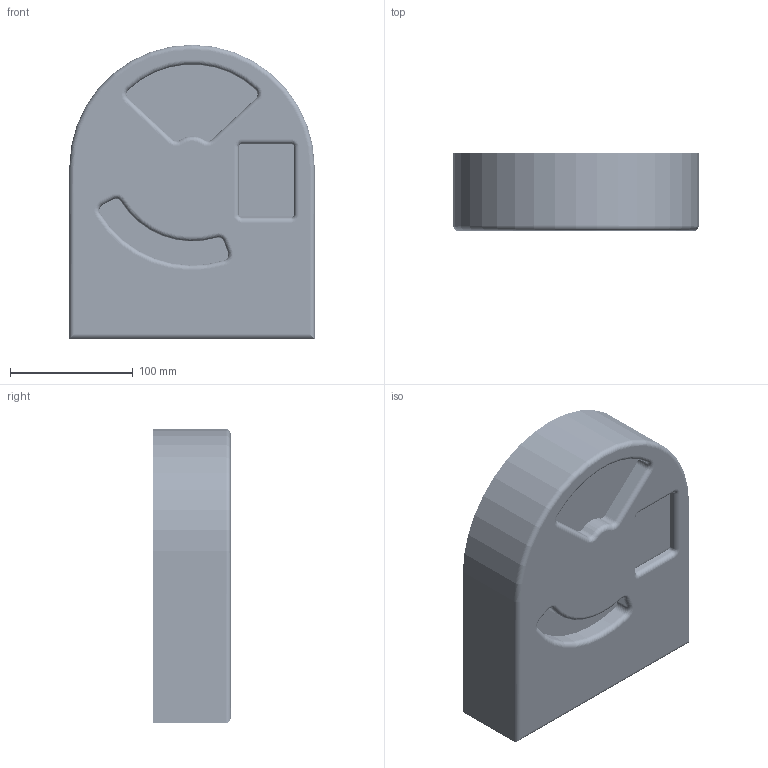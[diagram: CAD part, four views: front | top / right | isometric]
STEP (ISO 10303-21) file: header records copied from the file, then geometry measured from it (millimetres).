
FILE_DESCRIPTION(/* description */ (''),/* implementation_level */ '2;1');
FILE_NAME(/* name */ 'D:/User/Documents/fabacademy/files/assemblage v60.step',/* time_stamp */ '2020-09-23T17:01:46+02:00',/* author */ (''),/* organization */ (''),/* preprocessor_version */ 'ST-DEVELOPER v18.1',/* originating_system */ 'Autodesk Translation Framework v9.3.0.1241',/* authorisation */ '');
FILE_SCHEMA (('AUTOMOTIVE_DESIGN { 1 0 10303 214 3 1 1 }'));
Length unit declared in the file: millimetre
Products named in the file (98): assemblage; back; axe support; axe2; nixie_gear1; Spur Gear (105 teeth); 688ZZ Bearing; nixie_gear2; Spur Gear (105 teeth)_1; 688ZZ Bearing_1; nixie_gear3; Spur Gear (105 teeth)_2; 688ZZ Bearing_2; 7804K117; spacer; Stepper support; sensorholder; sensor; sensor_1; sensor_2; PCB Component; Board; EE-SY193; 4.7k; TPSQTP14SQ; 28BYJ stepper; 28BYJ stepper_1; temp window; mechacard; PCB Component_1; mechacard_1; PCB Component_2; mechacard_2; PCB Component_3; Board_1; 10nF; ULN2003AD; CONN_02X2-PINHEAD-SMD; ATTINY1614-SSNR; 2X03SMD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
Assembly tree (188 placements, depth 5):
  assemblage
    back
    axe support
    axe2
    spacer  x4
    nixie_gear1
      Spur Gear (105 teeth)
        688ZZ Bearing
          7804K117
    nixie_gear2
      Spur Gear (105 teeth)_1
        688ZZ Bearing_1
          7804K117
    nixie_gear3
      Spur Gear (105 teeth)_2
        688ZZ Bearing_2
          7804K117
    Stepper support
    sensorholder
    sensor
      PCB Component
        Board
        EE-SY193
        4.7k  x2
        TPSQTP14SQ  x3
    sensor_1
      PCB Component
        Board
        EE-SY193
        4.7k  x2
        TPSQTP14SQ  x3
    sensor_2
      PCB Component
        Board
        EE-SY193
        4.7k  x2
        TPSQTP14SQ  x3
    28BYJ stepper
      Component1
      Component2
    28BYJ stepper_1
      Component1
      Component2
    temp window
    mechacard
      PCB Component_1
        Board_1
        10nF  x2
        ULN2003AD
        CONN_02X2-PINHEAD-SMD
        ATTINY1614-SSNR
        2X03SMD
        1X05
        1X02
    mechacard_1
      PCB Component_2
        Board_1
        10nF  x2
        ULN2003AD
        CONN_02X2-PINHEAD-SMD
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Bounding box: 200 x 63 x 240 mm (x, y, z)
Volume: 1256780.1 mm3; surface area: 521769.9 mm2
Topology: 268 solids, 288 shells, 9696 faces, 25476 edges, 16704 vertices
Faces by surface type: plane 4790, cylinder 2882, bspline 1886, cone 54, sphere 50, torus 34
Full cylindrical faces by diameter (mm): 0.7 x36, 0.85 x4, 1 x12, 1.016 x27, 1.1 x5, 1.27 x18, 1.5 x16, 2.5 x43, 2.8 x2, 3 x44, 3.1 x8, 3.2 x15, 3.226 x4, 3.5 x6, 3.715 x4, 4.248 x4, 4.8 x3, 5 x9, 6.25 x6, 7.755 x1, 8 x10, 9 x3, 11 x4, 11.033 x12, 12.967 x12, 16 x6, 28 x3, 40 x1
Entity records: 260307 total; most frequent: CARTESIAN_POINT 72849, ORIENTED_EDGE 40154, DIRECTION 33701, EDGE_CURVE 20077, VERTEX_POINT 13192, LINE 12113, VECTOR 12113, AXIS2_PLACEMENT_3D 10794
